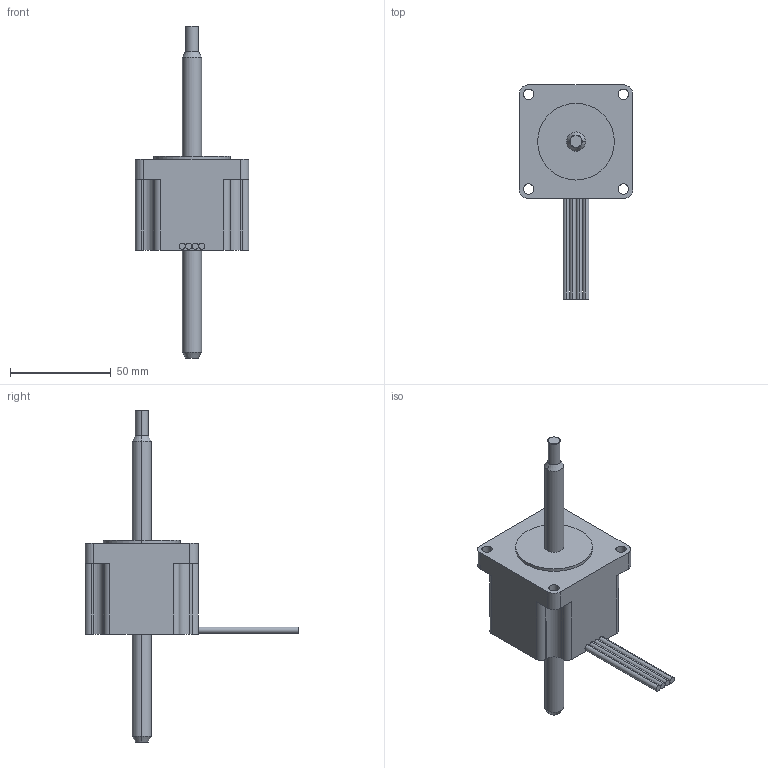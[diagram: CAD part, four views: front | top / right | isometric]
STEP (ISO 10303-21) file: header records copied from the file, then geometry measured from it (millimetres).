
FILE_DESCRIPTION (( 'STEP AP214' ), '1' );
FILE_NAME ('AMETEK-57F4A-3.25-6-12.STEP', '2019-03-08T15:40:25', ( '' ), ( '' ), 'SwSTEP 2.0', 'SolidWorks 2019', '' );
FILE_SCHEMA (( 'AUTOMOTIVE_DESIGN' ));
Length unit declared in the file: inch
Products named in the file (3): AMETEK-57F4A-3.25-6-12_57000_Non_Captive_Screw; AMETEK-57F4A-3.25-6-12_57000_Non_Captive_None; AMETEK-57F4A-3.25-6-12
Assembly tree (2 placements, depth 2):
  AMETEK-57F4A-3.25-6-12
    AMETEK-57F4A-3.25-6-12_57000_Non_Captive_None
    AMETEK-57F4A-3.25-6-12_57000_Non_Captive_Screw
Bounding box: 56.39 x 106.39 x 165.1 mm (x, y, z)
Volume: 141504.3 mm3; surface area: 24630.8 mm2
Topology: 2 solids, 2 shells, 74 faces, 184 edges, 120 vertices
Faces by surface type: cylinder 42, plane 26, cone 6
Entity records: 3234 total; most frequent: DIRECTION 430, CARTESIAN_POINT 383, ORIENTED_EDGE 368, EDGE_CURVE 184, AXIS2_PLACEMENT_3D 167, VERTEX_POINT 120, VECTOR 96, LINE 96
